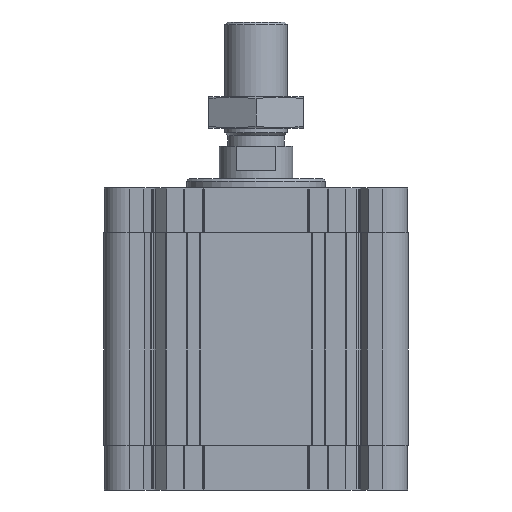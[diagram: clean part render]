
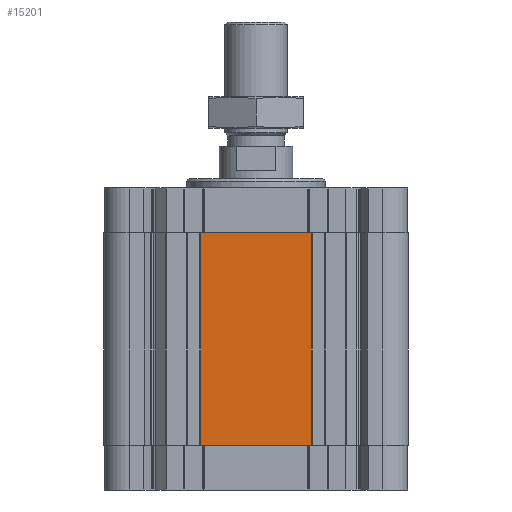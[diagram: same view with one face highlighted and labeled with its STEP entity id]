
A CAD part, front view. The second image highlights one B-rep face of the part: STEP entity #15201.
In plain terms, the highlighted planar face has unit normal (0, -1, 0).
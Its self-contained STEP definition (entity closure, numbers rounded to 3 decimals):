
#221 = EDGE_LOOP ( 'NONE', ( #3182, #9766, #4361, #5430 ) ) ;
#359 = LINE ( 'NONE', #8738, #7372 ) ;
#402 = VECTOR ( 'NONE', #10515, 1000. ) ;
#950 = VECTOR ( 'NONE', #18739, 1000. ) ;
#1309 = CARTESIAN_POINT ( 'NONE',  ( -24., -66., -111.5 ) ) ;
#2642 = LINE ( 'NONE', #12111, #950 ) ;
#3182 = ORIENTED_EDGE ( 'NONE', *, *, #21190, .F. ) ;
#3266 = CARTESIAN_POINT ( 'NONE',  ( -24., -66., -111.5 ) ) ;
#3960 = CARTESIAN_POINT ( 'NONE',  ( -24., -66., -19.5 ) ) ;
#4361 = ORIENTED_EDGE ( 'NONE', *, *, #9873, .T. ) ;
#4964 = VERTEX_POINT ( 'NONE', #3266 ) ;
#5430 = ORIENTED_EDGE ( 'NONE', *, *, #12475, .T. ) ;
#5464 = DIRECTION ( 'NONE',  ( 1., 0., 0. ) ) ;
#6082 = VERTEX_POINT ( 'NONE', #3960 ) ;
#6913 = AXIS2_PLACEMENT_3D ( 'NONE', #1309, #21110, #7957 ) ;
#7372 = VECTOR ( 'NONE', #5464, 1000. ) ;
#7957 = DIRECTION ( 'NONE',  ( -1., 0., 0. ) ) ;
#8137 = CARTESIAN_POINT ( 'NONE',  ( -24., -66., -111.5 ) ) ;
#8268 = VECTOR ( 'NONE', #21200, 1000. ) ;
#8738 = CARTESIAN_POINT ( 'NONE',  ( -24., -66., -19.5 ) ) ;
#9766 = ORIENTED_EDGE ( 'NONE', *, *, #12933, .F. ) ;
#9873 = EDGE_CURVE ( 'NONE', #4964, #14279, #11928, .T. ) ;
#10515 = DIRECTION ( 'NONE',  ( 1., 0., 0. ) ) ;
#11928 = LINE ( 'NONE', #18873, #402 ) ;
#12111 = CARTESIAN_POINT ( 'NONE',  ( 24., -66., -111.5 ) ) ;
#12475 = EDGE_CURVE ( 'NONE', #14279, #16267, #2642, .T. ) ;
#12933 = EDGE_CURVE ( 'NONE', #4964, #6082, #21304, .T. ) ;
#14279 = VERTEX_POINT ( 'NONE', #15519 ) ;
#15201 = ADVANCED_FACE ( 'NONE', ( #21332 ), #17728, .T. ) ;
#15519 = CARTESIAN_POINT ( 'NONE',  ( 24., -66., -111.5 ) ) ;
#16267 = VERTEX_POINT ( 'NONE', #16538 ) ;
#16538 = CARTESIAN_POINT ( 'NONE',  ( 24., -66., -19.5 ) ) ;
#17728 = PLANE ( 'NONE',  #6913 ) ;
#18739 = DIRECTION ( 'NONE',  ( 0., 0., 1. ) ) ;
#18873 = CARTESIAN_POINT ( 'NONE',  ( -24., -66., -111.5 ) ) ;
#21110 = DIRECTION ( 'NONE',  ( 0., -1., 0. ) ) ;
#21190 = EDGE_CURVE ( 'NONE', #6082, #16267, #359, .T. ) ;
#21200 = DIRECTION ( 'NONE',  ( 0., 0., 1. ) ) ;
#21304 = LINE ( 'NONE', #8137, #8268 ) ;
#21332 = FACE_OUTER_BOUND ( 'NONE', #221, .T. ) ;
